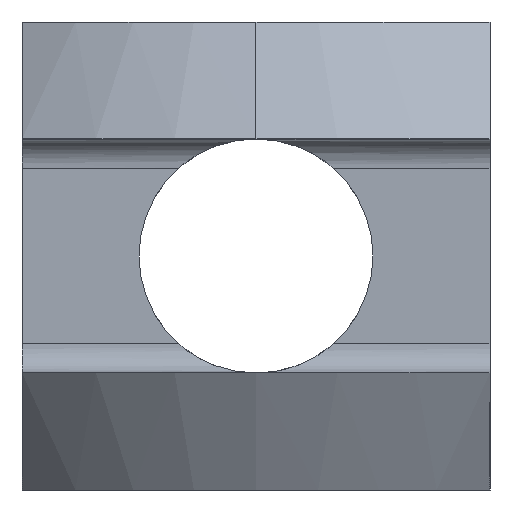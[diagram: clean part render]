
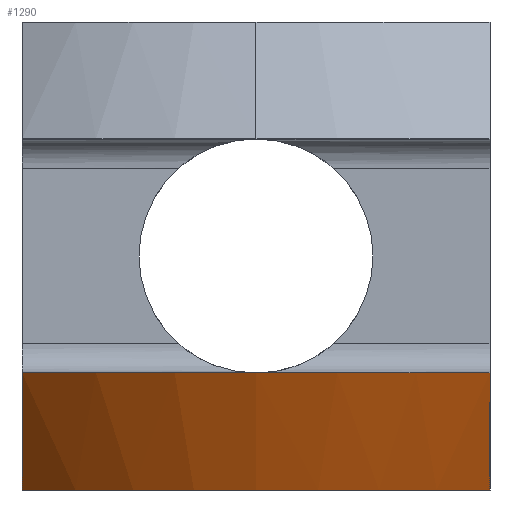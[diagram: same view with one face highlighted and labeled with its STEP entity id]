
A CAD part, left-side view. The second image highlights one B-rep face of the part: STEP entity #1290.
In plain terms, the highlighted conical face has half-angle 30 degrees and reference radius 16 mm.
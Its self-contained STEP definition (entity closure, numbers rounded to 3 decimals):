
#136 = VERTEX_POINT ( 'NONE', #500 ) ;
#151 = VERTEX_POINT ( 'NONE', #535 ) ;
#167 = EDGE_CURVE ( 'NONE', #151, #136, #603, .T. ) ;
#187 = EDGE_CURVE ( 'NONE', #151, #291, #657, .T. ) ;
#193 = ORIENTED_EDGE ( 'NONE', *, *, #245, .F. ) ;
#245 = EDGE_CURVE ( 'NONE', #293, #136, #780, .T. ) ;
#291 = VERTEX_POINT ( 'NONE', #813 ) ;
#292 = EDGE_CURVE ( 'NONE', #291, #293, #873, .T. ) ;
#293 = VERTEX_POINT ( 'NONE', #874 ) ;
#500 = CARTESIAN_POINT ( 'NONE',  ( -37.11, -8., -8. ) ) ;
#535 = CARTESIAN_POINT ( 'NONE',  ( -37.11, 8., -8. ) ) ;
#554 = CARTESIAN_POINT ( 'NONE',  ( -26., 0., -8. ) ) ;
#590 = DIRECTION ( 'NONE',  ( 1., 0., 0. ) ) ;
#591 = DIRECTION ( 'NONE',  ( 0., 0., 1. ) ) ;
#602 = AXIS2_PLACEMENT_3D ( 'NONE', #554, #591, #590 ) ;
#603 = CIRCLE ( 'NONE', #602, 13.691 ) ;
#652 = CARTESIAN_POINT ( 'NONE',  ( -39.856, 8., -4. ) ) ;
#653 = CARTESIAN_POINT ( 'NONE',  ( -38.959, 8., -5.345 ) ) ;
#654 = CARTESIAN_POINT ( 'NONE',  ( -38.048, 8., -6.681 ) ) ;
#655 = CARTESIAN_POINT ( 'NONE',  ( -37.11, 8., -8. ) ) ;
#657 = B_SPLINE_CURVE_WITH_KNOTS ( 'NONE', 3,
 ( #655, #654, #653, #652 ),
 .UNSPECIFIED., .F., .F.,
 ( 4, 4 ),
 ( 0.029, 0.034 ),
 .UNSPECIFIED. ) ;
#775 = CARTESIAN_POINT ( 'NONE',  ( -37.11, -8., -8. ) ) ;
#776 = CARTESIAN_POINT ( 'NONE',  ( -38.048, -8., -6.682 ) ) ;
#777 = CARTESIAN_POINT ( 'NONE',  ( -38.959, -8., -5.345 ) ) ;
#778 = CARTESIAN_POINT ( 'NONE',  ( -39.856, -8., -4. ) ) ;
#780 = B_SPLINE_CURVE_WITH_KNOTS ( 'NONE', 3,
 ( #778, #777, #776, #775 ),
 .UNSPECIFIED., .F., .F.,
 ( 4, 4 ),
 ( 0.012, 0.017 ),
 .UNSPECIFIED. ) ;
#812 = CARTESIAN_POINT ( 'NONE',  ( -26., 0., -4. ) ) ;
#813 = CARTESIAN_POINT ( 'NONE',  ( -39.856, 8., -4. ) ) ;
#870 = DIRECTION ( 'NONE',  ( 1., 0., 0. ) ) ;
#871 = DIRECTION ( 'NONE',  ( 0., 0., 1. ) ) ;
#872 = AXIS2_PLACEMENT_3D ( 'NONE', #812, #871, #870 ) ;
#873 = CIRCLE ( 'NONE', #872, 16. ) ;
#874 = CARTESIAN_POINT ( 'NONE',  ( -39.856, -8., -4. ) ) ;
#1060 = DIRECTION ( 'NONE',  ( 1., 0., 0. ) ) ;
#1061 = DIRECTION ( 'NONE',  ( 0., 0., 1. ) ) ;
#1062 = AXIS2_PLACEMENT_3D ( 'NONE', #1064, #1061, #1060 ) ;
#1064 = CARTESIAN_POINT ( 'NONE',  ( -26., 0., -4. ) ) ;
#1065 = CONICAL_SURFACE ( 'NONE', #1062, 16., 0.524 ) ;
#1066 = FACE_OUTER_BOUND ( 'NONE', #1288, .T. ) ;
#1286 = ORIENTED_EDGE ( 'NONE', *, *, #167, .T. ) ;
#1287 = ORIENTED_EDGE ( 'NONE', *, *, #187, .F. ) ;
#1288 = EDGE_LOOP ( 'NONE', ( #1289, #1287, #1286, #193 ) ) ;
#1289 = ORIENTED_EDGE ( 'NONE', *, *, #292, .F. ) ;
#1290 = ADVANCED_FACE ( 'NONE', ( #1066 ), #1065, .T. ) ;
